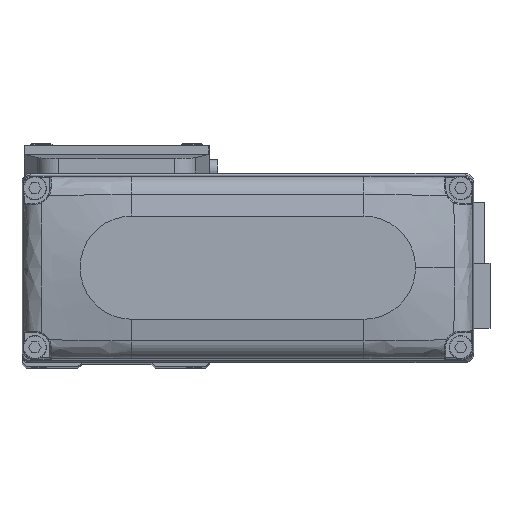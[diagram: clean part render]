
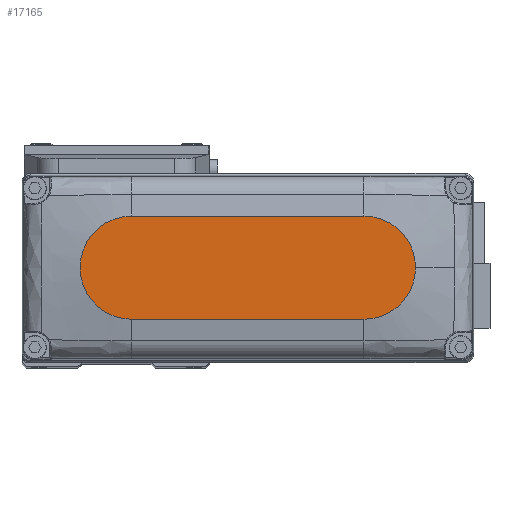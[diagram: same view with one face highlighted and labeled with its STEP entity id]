
A CAD part, top view. The second image highlights one B-rep face of the part: STEP entity #17165.
In plain terms, the highlighted planar face has unit normal (0, 0, 1).
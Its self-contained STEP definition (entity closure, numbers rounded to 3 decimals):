
#681 = AXIS2_PLACEMENT_3D ( 'NONE', #24938, #12104, #24227 ) ;
#1885 = VERTEX_POINT ( 'NONE', #18772 ) ;
#2549 = CARTESIAN_POINT ( 'NONE',  ( 27., -12., 25. ) ) ;
#2873 = ORIENTED_EDGE ( 'NONE', *, *, #19601, .T. ) ;
#2939 = LINE ( 'NONE', #15099, #34922 ) ;
#3739 = CARTESIAN_POINT ( 'NONE',  ( -27., -12., 25. ) ) ;
#3949 = AXIS2_PLACEMENT_3D ( 'NONE', #22805, #34894, #7703 ) ;
#4455 = DIRECTION ( 'NONE',  ( 1., 0., 0. ) ) ;
#4888 = ORIENTED_EDGE ( 'NONE', *, *, #6573, .T. ) ;
#5171 = CIRCLE ( 'NONE', #27376, 12. ) ;
#5460 = DIRECTION ( 'NONE',  ( 1., 0., 0. ) ) ;
#6573 = EDGE_CURVE ( 'NONE', #35028, #31393, #19575, .T. ) ;
#7703 = DIRECTION ( 'NONE',  ( 1., 0., 0. ) ) ;
#10250 = DIRECTION ( 'NONE',  ( 1., 0., 0. ) ) ;
#10678 = PLANE ( 'NONE',  #3949 ) ;
#12104 = DIRECTION ( 'NONE',  ( 0., 0., 1. ) ) ;
#15099 = CARTESIAN_POINT ( 'NONE',  ( -27., 12., 25. ) ) ;
#17165 = ADVANCED_FACE ( 'NONE', ( #37874 ), #10678, .T. ) ;
#17341 = EDGE_LOOP ( 'NONE', ( #22244, #2873, #4888, #36534, #21250 ) ) ;
#17827 = CIRCLE ( 'NONE', #681, 12. ) ;
#17881 = AXIS2_PLACEMENT_3D ( 'NONE', #20579, #32670, #5460 ) ;
#18772 = CARTESIAN_POINT ( 'NONE',  ( -27., 12., 25. ) ) ;
#19575 = LINE ( 'NONE', #31678, #30401 ) ;
#19601 = EDGE_CURVE ( 'NONE', #1885, #35028, #34972, .T. ) ;
#20579 = CARTESIAN_POINT ( 'NONE',  ( -27., 0., 25. ) ) ;
#21250 = ORIENTED_EDGE ( 'NONE', *, *, #32032, .T. ) ;
#22244 = ORIENTED_EDGE ( 'NONE', *, *, #31442, .T. ) ;
#22805 = CARTESIAN_POINT ( 'NONE',  ( 0., 0., 25. ) ) ;
#24227 = DIRECTION ( 'NONE',  ( 1., 0., 0. ) ) ;
#24320 = VERTEX_POINT ( 'NONE', #31093 ) ;
#24938 = CARTESIAN_POINT ( 'NONE',  ( 27., 0., 25. ) ) ;
#25270 = CARTESIAN_POINT ( 'NONE',  ( 39., 0., 25. ) ) ;
#25342 = CARTESIAN_POINT ( 'NONE',  ( 27., 0., 25. ) ) ;
#27193 = DIRECTION ( 'NONE',  ( -1., 0., 0. ) ) ;
#27376 = AXIS2_PLACEMENT_3D ( 'NONE', #25342, #37430, #10250 ) ;
#30263 = VERTEX_POINT ( 'NONE', #25270 ) ;
#30401 = VECTOR ( 'NONE', #4455, 1000. ) ;
#31093 = CARTESIAN_POINT ( 'NONE',  ( 27., 12., 25. ) ) ;
#31393 = VERTEX_POINT ( 'NONE', #2549 ) ;
#31442 = EDGE_CURVE ( 'NONE', #24320, #1885, #2939, .T. ) ;
#31449 = EDGE_CURVE ( 'NONE', #31393, #30263, #17827, .T. ) ;
#31678 = CARTESIAN_POINT ( 'NONE',  ( -27., -12., 25. ) ) ;
#32032 = EDGE_CURVE ( 'NONE', #30263, #24320, #5171, .T. ) ;
#32670 = DIRECTION ( 'NONE',  ( 0., 0., 1. ) ) ;
#34894 = DIRECTION ( 'NONE',  ( 0., 0., 1. ) ) ;
#34922 = VECTOR ( 'NONE', #27193, 1000. ) ;
#34972 = CIRCLE ( 'NONE', #17881, 12. ) ;
#35028 = VERTEX_POINT ( 'NONE', #3739 ) ;
#36534 = ORIENTED_EDGE ( 'NONE', *, *, #31449, .T. ) ;
#37430 = DIRECTION ( 'NONE',  ( 0., 0., 1. ) ) ;
#37874 = FACE_OUTER_BOUND ( 'NONE', #17341, .T. ) ;
